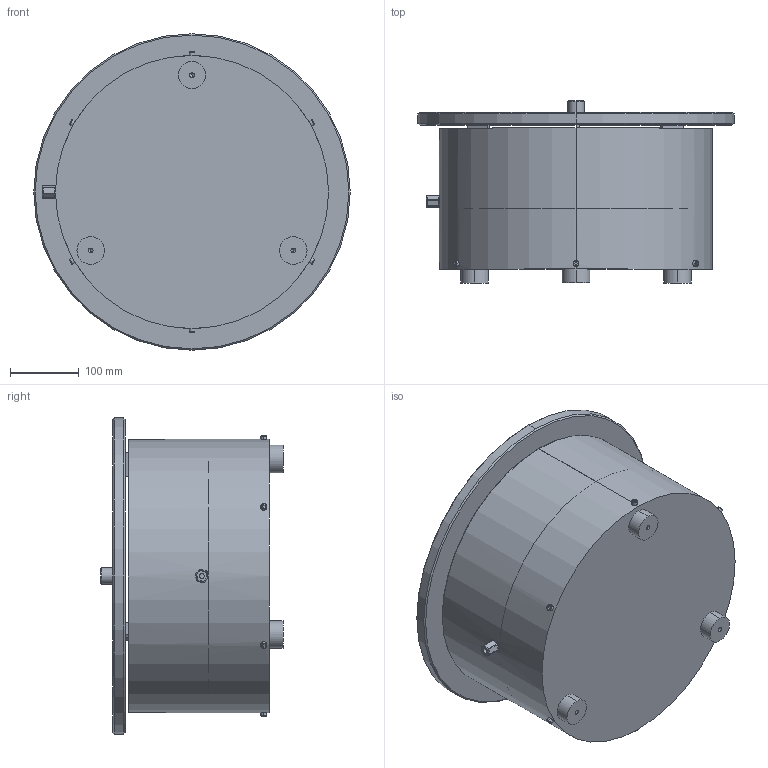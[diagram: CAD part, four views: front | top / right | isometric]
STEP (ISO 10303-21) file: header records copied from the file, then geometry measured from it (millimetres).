
FILE_DESCRIPTION (( 'STEP AP214' ), '1' );
FILE_NAME ('PW500_WIBRAMET.STEP', '2020-07-21T06:15:51', ( '' ), ( '' ), 'SwSTEP 2.0', 'SolidWorks 2017', '' );
FILE_SCHEMA (( 'AUTOMOTIVE_DESIGN' ));
Length unit declared in the file: millimetre
Products named in the file (1): PW500_WIBRAMET
Bounding box: 460 x 264.65 x 460 mm (x, y, z)
Volume: 14169551.3 mm3; surface area: 1044616.2 mm2
Topology: 1 solids, 1 shells, 171 faces, 401 edges, 245 vertices
Faces by surface type: plane 76, cylinder 49, bspline 14, cone 14, torus 12, sphere 6
Entity records: 6546 total; most frequent: CARTESIAN_POINT 1930, DIRECTION 783, ORIENTED_EDGE 782, EDGE_CURVE 391, AXIS2_PLACEMENT_3D 281, VERTEX_POINT 243, VECTOR 221, LINE 221
